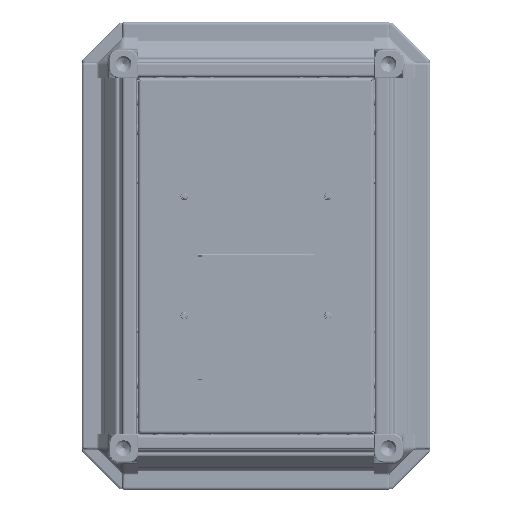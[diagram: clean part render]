
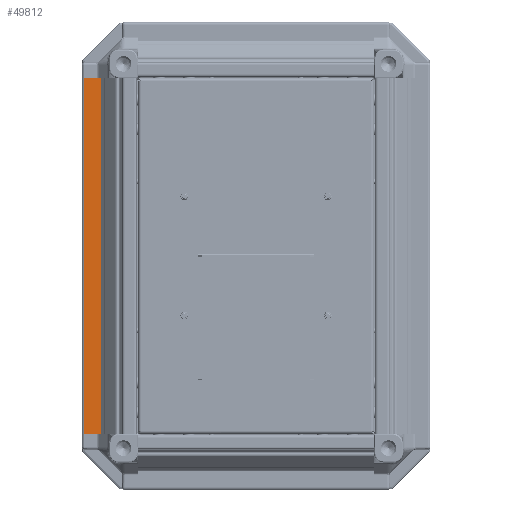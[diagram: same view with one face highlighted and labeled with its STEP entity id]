
A CAD part, front view. The second image highlights one B-rep face of the part: STEP entity #49812.
In plain terms, the highlighted planar face has unit normal (0, -1, 0) as drawn and (0.707, -0.707, 0) by its records, which use the part's own axes.
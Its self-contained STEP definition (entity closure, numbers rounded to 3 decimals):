
#1409 = LINE ( 'NONE', #34297, #16645 ) ;
#2294 = EDGE_CURVE ( 'NONE', #27094, #14889, #1409, .T. ) ;
#4686 = EDGE_CURVE ( 'NONE', #14172, #44409, #7195, .T. ) ;
#4734 = CARTESIAN_POINT ( 'NONE',  ( -22.386, -7.932, 0. ) ) ;
#6354 = ORIENTED_EDGE ( 'NONE', *, *, #2294, .T. ) ;
#7195 = LINE ( 'NONE', #15791, #25386 ) ;
#9126 = ORIENTED_EDGE ( 'NONE', *, *, #25497, .T. ) ;
#11224 = DIRECTION ( 'NONE',  ( 0., 0., -1. ) ) ;
#12199 = CARTESIAN_POINT ( 'NONE',  ( -12.747, 1.707, 0. ) ) ;
#14056 = DIRECTION ( 'NONE',  ( 0., 0., -1. ) ) ;
#14172 = VERTEX_POINT ( 'NONE', #39228 ) ;
#14350 = CARTESIAN_POINT ( 'NONE',  ( -22.386, -7.932, 298. ) ) ;
#14889 = VERTEX_POINT ( 'NONE', #37718 ) ;
#15791 = CARTESIAN_POINT ( 'NONE',  ( -12.747, 1.707, 298. ) ) ;
#16645 = VECTOR ( 'NONE', #14056, 1000. ) ;
#18166 = CARTESIAN_POINT ( 'NONE',  ( -22.386, -7.932, 298. ) ) ;
#22882 = EDGE_LOOP ( 'NONE', ( #9126, #41563, #40860, #6354 ) ) ;
#25386 = VECTOR ( 'NONE', #11224, 1000. ) ;
#25497 = EDGE_CURVE ( 'NONE', #14889, #44409, #29527, .T. ) ;
#27094 = VERTEX_POINT ( 'NONE', #37669 ) ;
#29527 = LINE ( 'NONE', #4734, #49354 ) ;
#30823 = DIRECTION ( 'NONE',  ( -0.707, -0.707, 0. ) ) ;
#30993 = VECTOR ( 'NONE', #42477, 1000. ) ;
#31356 = PLANE ( 'NONE',  #34093 ) ;
#34093 = AXIS2_PLACEMENT_3D ( 'NONE', #14350, #43765, #30823 ) ;
#34297 = CARTESIAN_POINT ( 'NONE',  ( -22.386, -7.932, 298. ) ) ;
#37669 = CARTESIAN_POINT ( 'NONE',  ( -22.386, -7.932, 298. ) ) ;
#37718 = CARTESIAN_POINT ( 'NONE',  ( -22.386, -7.932, 0. ) ) ;
#37906 = LINE ( 'NONE', #18166, #30993 ) ;
#39196 = FACE_OUTER_BOUND ( 'NONE', #22882, .T. ) ;
#39228 = CARTESIAN_POINT ( 'NONE',  ( -12.747, 1.707, 298. ) ) ;
#40860 = ORIENTED_EDGE ( 'NONE', *, *, #47264, .F. ) ;
#41563 = ORIENTED_EDGE ( 'NONE', *, *, #4686, .F. ) ;
#42477 = DIRECTION ( 'NONE',  ( 0.707, 0.707, 0. ) ) ;
#43765 = DIRECTION ( 'NONE',  ( -0.707, 0.707, 0. ) ) ;
#44409 = VERTEX_POINT ( 'NONE', #12199 ) ;
#45705 = DIRECTION ( 'NONE',  ( 0.707, 0.707, 0. ) ) ;
#47264 = EDGE_CURVE ( 'NONE', #27094, #14172, #37906, .T. ) ;
#49354 = VECTOR ( 'NONE', #45705, 1000. ) ;
#49812 = ADVANCED_FACE ( 'NONE', ( #39196 ), #31356, .F. ) ;
